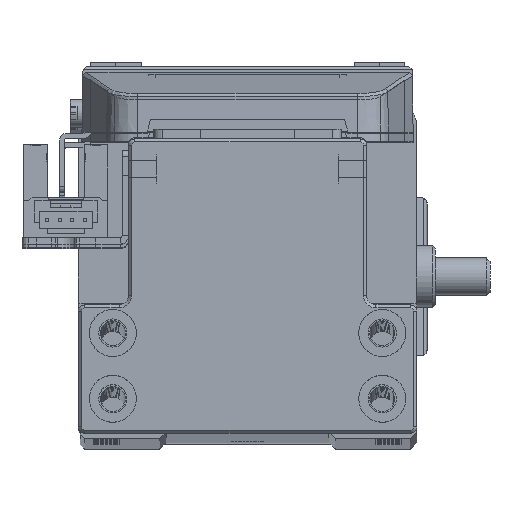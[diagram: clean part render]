
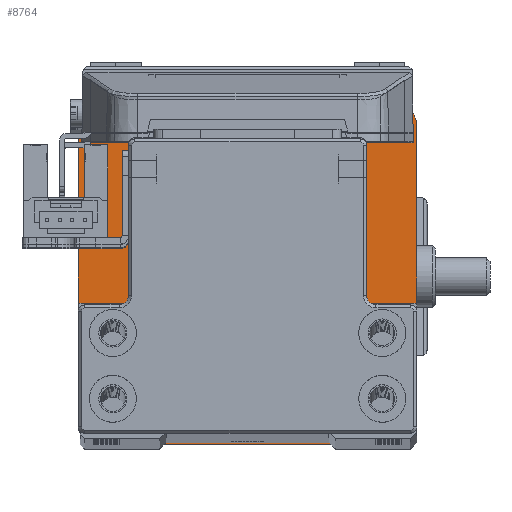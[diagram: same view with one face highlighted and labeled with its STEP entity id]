
A CAD part, top view. The second image highlights one B-rep face of the part: STEP entity #8764.
In plain terms, the highlighted planar face has unit normal (0, 0, 1) as drawn and (0, 0, -1) by its records, which use the part's own axes.
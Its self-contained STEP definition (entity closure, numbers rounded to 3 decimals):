
#307 = FACE_BOUND ( 'NONE', #10591, .T. ) ;
#834 = CARTESIAN_POINT ( 'NONE',  ( 21.5, -21.5, 0. ) ) ;
#1411 = EDGE_CURVE ( 'NONE', #32912, #25225, #25175, .T. ) ;
#1463 = FACE_BOUND ( 'NONE', #13313, .T. ) ;
#1644 = CARTESIAN_POINT ( 'NONE',  ( 24., -27., 0. ) ) ;
#1989 = VERTEX_POINT ( 'NONE', #26124 ) ;
#2037 = DIRECTION ( 'NONE',  ( 0., 0., 1. ) ) ;
#2181 = ORIENTED_EDGE ( 'NONE', *, *, #38641, .F. ) ;
#2201 = DIRECTION ( 'NONE',  ( 0., 0., 1. ) ) ;
#2265 = VECTOR ( 'NONE', #30236, 1000. ) ;
#2915 = AXIS2_PLACEMENT_3D ( 'NONE', #4509, #15629, #4102 ) ;
#3042 = CARTESIAN_POINT ( 'NONE',  ( 21.5, -11., 0. ) ) ;
#3282 = VERTEX_POINT ( 'NONE', #16972 ) ;
#3904 = DIRECTION ( 'NONE',  ( 1., 0., 0. ) ) ;
#4102 = DIRECTION ( 'NONE',  ( 1., 0., 0. ) ) ;
#4297 = DIRECTION ( 'NONE',  ( 0., -1., 0. ) ) ;
#4304 = EDGE_CURVE ( 'NONE', #20253, #21631, #42895, .T. ) ;
#4509 = CARTESIAN_POINT ( 'NONE',  ( -21.5, -11., 0. ) ) ;
#4702 = CARTESIAN_POINT ( 'NONE',  ( 23.75, -21.5, 0. ) ) ;
#5078 = ORIENTED_EDGE ( 'NONE', *, *, #43479, .T. ) ;
#5142 = CARTESIAN_POINT ( 'NONE',  ( -24., 27., 0. ) ) ;
#5281 = LINE ( 'NONE', #7646, #44017 ) ;
#6276 = LINE ( 'NONE', #33099, #35203 ) ;
#6644 = VERTEX_POINT ( 'NONE', #20804 ) ;
#7487 = VERTEX_POINT ( 'NONE', #10671 ) ;
#7624 = AXIS2_PLACEMENT_3D ( 'NONE', #22301, #25512, #47790 ) ;
#7646 = CARTESIAN_POINT ( 'NONE',  ( -27., 24., 0. ) ) ;
#8020 = EDGE_CURVE ( 'NONE', #7487, #41349, #14838, .T. ) ;
#8764 = ADVANCED_FACE ( 'NONE', ( #39017, #1463, #33855, #307, #14215 ), #21440, .F. ) ;
#8846 = EDGE_LOOP ( 'NONE', ( #12764, #13509, #13364, #2181, #39278, #22857, #39322, #24755 ) ) ;
#9505 = ORIENTED_EDGE ( 'NONE', *, *, #26227, .T. ) ;
#9562 = CARTESIAN_POINT ( 'NONE',  ( -23.75, -21.5, 0. ) ) ;
#10591 = EDGE_LOOP ( 'NONE', ( #37922, #9505 ) ) ;
#10671 = CARTESIAN_POINT ( 'NONE',  ( -23.75, -11., 0. ) ) ;
#10825 = CIRCLE ( 'NONE', #40607, 3. ) ;
#11687 = CARTESIAN_POINT ( 'NONE',  ( 27., 24., 0. ) ) ;
#12052 = DIRECTION ( 'NONE',  ( 1., 0., 0. ) ) ;
#12206 = DIRECTION ( 'NONE',  ( 0., 0., 1. ) ) ;
#12477 = CARTESIAN_POINT ( 'NONE',  ( -27., 24., 0. ) ) ;
#12679 = DIRECTION ( 'NONE',  ( -1., 0., 0. ) ) ;
#12764 = ORIENTED_EDGE ( 'NONE', *, *, #1411, .F. ) ;
#12985 = EDGE_CURVE ( 'NONE', #45337, #40101, #16539, .T. ) ;
#13313 = EDGE_LOOP ( 'NONE', ( #33980, #14923 ) ) ;
#13364 = ORIENTED_EDGE ( 'NONE', *, *, #4304, .F. ) ;
#13376 = DIRECTION ( 'NONE',  ( 1., 0., 0. ) ) ;
#13509 = ORIENTED_EDGE ( 'NONE', *, *, #26661, .F. ) ;
#13771 = VERTEX_POINT ( 'NONE', #31983 ) ;
#14215 = FACE_OUTER_BOUND ( 'NONE', #8846, .T. ) ;
#14456 = CIRCLE ( 'NONE', #20872, 2.25 ) ;
#14838 = CIRCLE ( 'NONE', #2915, 2.25 ) ;
#14923 = ORIENTED_EDGE ( 'NONE', *, *, #43897, .T. ) ;
#15629 = DIRECTION ( 'NONE',  ( 0., 0., 1. ) ) ;
#15959 = DIRECTION ( 'NONE',  ( 1., 0., 0. ) ) ;
#16048 = DIRECTION ( 'NONE',  ( 1., 0., 0. ) ) ;
#16539 = CIRCLE ( 'NONE', #7624, 3. ) ;
#16972 = CARTESIAN_POINT ( 'NONE',  ( 19.25, -11., 0. ) ) ;
#18185 = AXIS2_PLACEMENT_3D ( 'NONE', #30064, #44758, #3904 ) ;
#18274 = EDGE_CURVE ( 'NONE', #43622, #13771, #10825, .T. ) ;
#19586 = CARTESIAN_POINT ( 'NONE',  ( -21.5, -11., 0. ) ) ;
#20136 = CIRCLE ( 'NONE', #18185, 2.25 ) ;
#20253 = VERTEX_POINT ( 'NONE', #5142 ) ;
#20804 = CARTESIAN_POINT ( 'NONE',  ( 23.75, -11., 0. ) ) ;
#20872 = AXIS2_PLACEMENT_3D ( 'NONE', #46315, #2037, #38530 ) ;
#21190 = DIRECTION ( 'NONE',  ( 1., 0., 0. ) ) ;
#21440 = PLANE ( 'NONE',  #45027 ) ;
#21619 = AXIS2_PLACEMENT_3D ( 'NONE', #45479, #12206, #12052 ) ;
#21631 = VERTEX_POINT ( 'NONE', #12477 ) ;
#21672 = AXIS2_PLACEMENT_3D ( 'NONE', #35539, #24929, #39247 ) ;
#22301 = CARTESIAN_POINT ( 'NONE',  ( 24., 24., 0. ) ) ;
#22857 = ORIENTED_EDGE ( 'NONE', *, *, #28346, .F. ) ;
#22895 = CARTESIAN_POINT ( 'NONE',  ( -24., 24., 0. ) ) ;
#23076 = EDGE_CURVE ( 'NONE', #25225, #43622, #31883, .T. ) ;
#23676 = CIRCLE ( 'NONE', #42390, 2.25 ) ;
#24755 = ORIENTED_EDGE ( 'NONE', *, *, #23076, .F. ) ;
#24816 = EDGE_LOOP ( 'NONE', ( #5078, #41473 ) ) ;
#24929 = DIRECTION ( 'NONE',  ( 0., 0., 1. ) ) ;
#25175 = CIRCLE ( 'NONE', #21619, 3. ) ;
#25225 = VERTEX_POINT ( 'NONE', #30361 ) ;
#25512 = DIRECTION ( 'NONE',  ( 0., 0., 1. ) ) ;
#26124 = CARTESIAN_POINT ( 'NONE',  ( -19.25, -21.5, 0. ) ) ;
#26225 = CARTESIAN_POINT ( 'NONE',  ( -27., -24., 0. ) ) ;
#26227 = EDGE_CURVE ( 'NONE', #3282, #6644, #29516, .T. ) ;
#26661 = EDGE_CURVE ( 'NONE', #21631, #32912, #5281, .T. ) ;
#28346 = EDGE_CURVE ( 'NONE', #13771, #45337, #43891, .T. ) ;
#29516 = CIRCLE ( 'NONE', #35586, 2.25 ) ;
#29850 = EDGE_LOOP ( 'NONE', ( #47170, #44468 ) ) ;
#29945 = CARTESIAN_POINT ( 'NONE',  ( -24., -27., 0. ) ) ;
#30064 = CARTESIAN_POINT ( 'NONE',  ( -21.5, -21.5, 0. ) ) ;
#30236 = DIRECTION ( 'NONE',  ( 0., 1., 0. ) ) ;
#30361 = CARTESIAN_POINT ( 'NONE',  ( -24., -27., 0. ) ) ;
#31883 = LINE ( 'NONE', #29945, #35938 ) ;
#31983 = CARTESIAN_POINT ( 'NONE',  ( 27., -24., 0. ) ) ;
#32671 = DIRECTION ( 'NONE',  ( 0., 0., 1. ) ) ;
#32810 = CIRCLE ( 'NONE', #40664, 2.25 ) ;
#32829 = DIRECTION ( 'NONE',  ( 1., 0., 0. ) ) ;
#32912 = VERTEX_POINT ( 'NONE', #26225 ) ;
#33099 = CARTESIAN_POINT ( 'NONE',  ( -24., 27., 0. ) ) ;
#33212 = EDGE_CURVE ( 'NONE', #40691, #44092, #41355, .T. ) ;
#33254 = DIRECTION ( 'NONE',  ( -1., 0., 0. ) ) ;
#33855 = FACE_BOUND ( 'NONE', #24816, .T. ) ;
#33980 = ORIENTED_EDGE ( 'NONE', *, *, #41482, .T. ) ;
#34104 = CARTESIAN_POINT ( 'NONE',  ( 24., 27., 0. ) ) ;
#34474 = CARTESIAN_POINT ( 'NONE',  ( 24., -24., 0. ) ) ;
#34476 = DIRECTION ( 'NONE',  ( 0., 0., 1. ) ) ;
#35203 = VECTOR ( 'NONE', #33254, 1000. ) ;
#35430 = CARTESIAN_POINT ( 'NONE',  ( 19.25, -21.5, 0. ) ) ;
#35539 = CARTESIAN_POINT ( 'NONE',  ( 21.5, -21.5, 0. ) ) ;
#35586 = AXIS2_PLACEMENT_3D ( 'NONE', #3042, #39864, #21190 ) ;
#35938 = VECTOR ( 'NONE', #47910, 1000. ) ;
#36391 = CARTESIAN_POINT ( 'NONE',  ( -24., -24., 0. ) ) ;
#37438 = CARTESIAN_POINT ( 'NONE',  ( -19.25, -11., 0. ) ) ;
#37913 = DIRECTION ( 'NONE',  ( 0., 0., 1. ) ) ;
#37922 = ORIENTED_EDGE ( 'NONE', *, *, #41570, .T. ) ;
#38169 = DIRECTION ( 'NONE',  ( 0., 0., 1. ) ) ;
#38173 = DIRECTION ( 'NONE',  ( 0., 0., 1. ) ) ;
#38175 = DIRECTION ( 'NONE',  ( 1., 0., 0. ) ) ;
#38530 = DIRECTION ( 'NONE',  ( 1., 0., 0. ) ) ;
#38641 = EDGE_CURVE ( 'NONE', #40101, #20253, #6276, .T. ) ;
#38697 = CARTESIAN_POINT ( 'NONE',  ( -21.5, -21.5, 0. ) ) ;
#38712 = EDGE_CURVE ( 'NONE', #41349, #7487, #23676, .T. ) ;
#39017 = FACE_BOUND ( 'NONE', #29850, .T. ) ;
#39247 = DIRECTION ( 'NONE',  ( 1., 0., 0. ) ) ;
#39278 = ORIENTED_EDGE ( 'NONE', *, *, #12985, .F. ) ;
#39322 = ORIENTED_EDGE ( 'NONE', *, *, #18274, .F. ) ;
#39864 = DIRECTION ( 'NONE',  ( 0., 0., 1. ) ) ;
#40101 = VERTEX_POINT ( 'NONE', #34104 ) ;
#40607 = AXIS2_PLACEMENT_3D ( 'NONE', #34474, #38173, #12679 ) ;
#40664 = AXIS2_PLACEMENT_3D ( 'NONE', #834, #38169, #16048 ) ;
#40691 = VERTEX_POINT ( 'NONE', #35430 ) ;
#41098 = CARTESIAN_POINT ( 'NONE',  ( 27., 24., 0. ) ) ;
#41349 = VERTEX_POINT ( 'NONE', #37438 ) ;
#41355 = CIRCLE ( 'NONE', #21672, 2.25 ) ;
#41473 = ORIENTED_EDGE ( 'NONE', *, *, #33212, .T. ) ;
#41482 = EDGE_CURVE ( 'NONE', #1989, #46564, #45668, .T. ) ;
#41570 = EDGE_CURVE ( 'NONE', #6644, #3282, #14456, .T. ) ;
#42390 = AXIS2_PLACEMENT_3D ( 'NONE', #19586, #37913, #15959 ) ;
#42895 = CIRCLE ( 'NONE', #44543, 3. ) ;
#43479 = EDGE_CURVE ( 'NONE', #44092, #40691, #32810, .T. ) ;
#43622 = VERTEX_POINT ( 'NONE', #1644 ) ;
#43891 = LINE ( 'NONE', #11687, #2265 ) ;
#43897 = EDGE_CURVE ( 'NONE', #46564, #1989, #20136, .T. ) ;
#44017 = VECTOR ( 'NONE', #4297, 1000. ) ;
#44092 = VERTEX_POINT ( 'NONE', #4702 ) ;
#44468 = ORIENTED_EDGE ( 'NONE', *, *, #8020, .T. ) ;
#44543 = AXIS2_PLACEMENT_3D ( 'NONE', #22895, #34476, #38175 ) ;
#44758 = DIRECTION ( 'NONE',  ( 0., 0., 1. ) ) ;
#45027 = AXIS2_PLACEMENT_3D ( 'NONE', #36391, #32671, #32829 ) ;
#45337 = VERTEX_POINT ( 'NONE', #41098 ) ;
#45479 = CARTESIAN_POINT ( 'NONE',  ( -24., -24., 0. ) ) ;
#45668 = CIRCLE ( 'NONE', #46516, 2.25 ) ;
#46315 = CARTESIAN_POINT ( 'NONE',  ( 21.5, -11., 0. ) ) ;
#46516 = AXIS2_PLACEMENT_3D ( 'NONE', #38697, #2201, #13376 ) ;
#46564 = VERTEX_POINT ( 'NONE', #9562 ) ;
#47170 = ORIENTED_EDGE ( 'NONE', *, *, #38712, .T. ) ;
#47790 = DIRECTION ( 'NONE',  ( 1., 0., 0. ) ) ;
#47910 = DIRECTION ( 'NONE',  ( 1., 0., 0. ) ) ;
